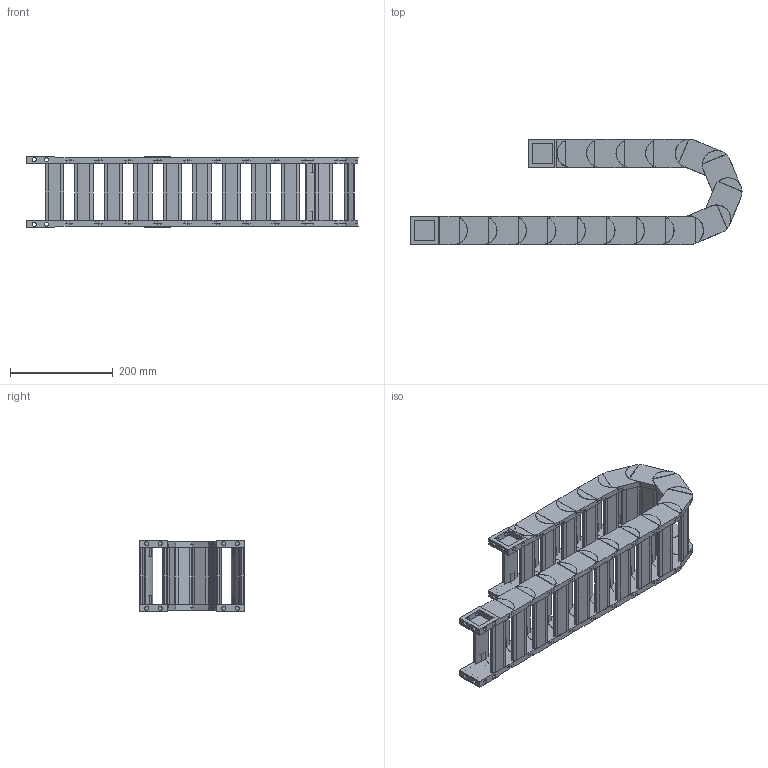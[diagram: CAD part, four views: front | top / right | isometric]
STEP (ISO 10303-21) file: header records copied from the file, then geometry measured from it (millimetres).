
FILE_DESCRIPTION((''),'2;1');
FILE_NAME('HD35-R75-ZPT_ASM','2022-07-25T16:50:48',('admin'),(''),'CREO PARAMETRIC BY PTC INC, 2021164','CREO PARAMETRIC BY PTC INC, 2021164','');
FILE_SCHEMA(('CONFIG_CONTROL_DESIGN','GEOMETRIC_VALIDATION_PROPERTIES_MIM'));
Length unit declared in the file: millimetre
Products named in the file (6): HD35; 35-600001; HD35_ASM; 35-TL_11; 35-WL; HD35-R75-ZPT_ASM
Assembly tree (22 placements, depth 3):
  HD35-R75-ZPT_ASM
    HD35_ASM  x16
      HD35
      35-600001
    35-TL_11
    35-WL
    35-600001  x2
Bounding box: 646.69 x 205 x 138.3 mm (x, y, z)
Volume: 2609196 mm3; surface area: 929025.3 mm2
Topology: 72 solids, 72 shells, 1354 faces, 3602 edges, 2468 vertices
Faces by surface type: plane 918, cylinder 436
Entity records: 9383 total; most frequent: DIRECTION 1418, CARTESIAN_POINT 1408, ORIENTED_EDGE 1300, EDGE_CURVE 650, AXIS2_PLACEMENT_3D 504, VERTEX_POINT 440, VECTOR 410, LINE 410
